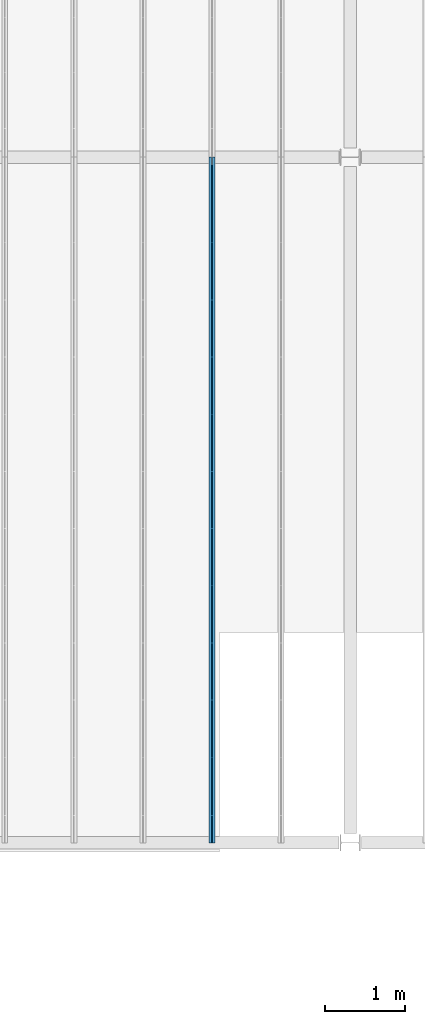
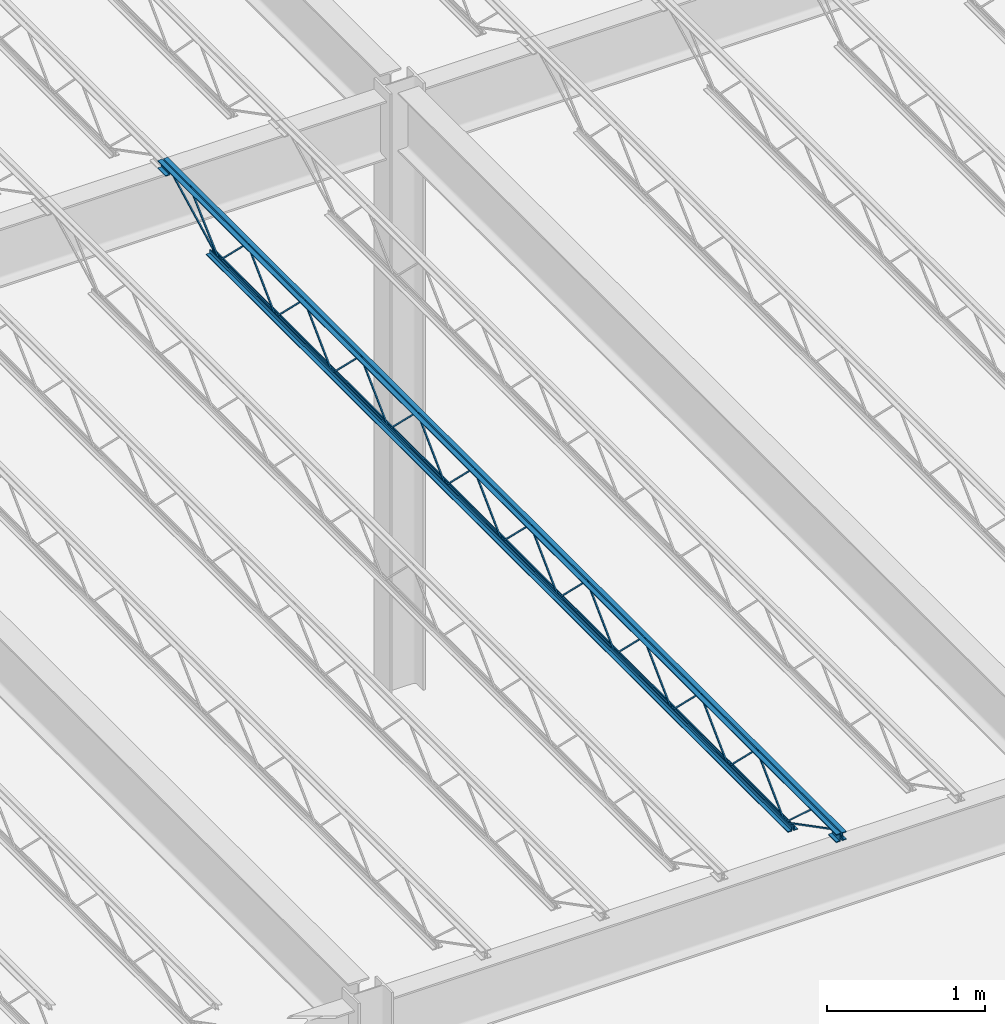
# One storey, part 49 of 119: 1 beam.
"""IFC2X3 building model written with IfcOpenShell, lengths in metres."""

from ifc_helpers import new_model, entity, si_unit, converted_unit, frame, origin, place, context, project, spatial, face_set, surface_model, element, save


model = new_model("IFC2X3")

# Units and contexts
model_context = context("Model", 3, precision=1e-09, world=origin())
plan_context = context("Plan", 3, precision=1e-09, world=origin())
ifc_project = project(units=[si_unit("LENGTHUNIT", "METRE"), si_unit("AREAUNIT", "SQUARE_METRE"), si_unit("VOLUMEUNIT", "CUBIC_METRE"), converted_unit("PLANEANGLEUNIT", "DEGREE", entity("IfcRatioMeasure", 0.01745329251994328), si_unit("PLANEANGLEUNIT", "RADIAN"), dimensions=[0, 0, 0, 0, 0, 0, 0]), si_unit("TIMEUNIT", "SECOND")], contexts=[model_context, plan_context])

# Site, building, storey
site_placement = place(None, origin())
site = spatial("IfcSite", under=ifc_project, at=site_placement, Name="Default", CompositionType="ELEMENT")
building_placement = place(site_placement, origin())
building = spatial("IfcBuilding", under=site, at=building_placement, CompositionType="ELEMENT")
storey_placement = place(building_placement, frame((0.0, 0.0, 4.570000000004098)))
storey = spatial("IfcBuildingStorey", under=building, at=storey_placement, Name="Second Floor", CompositionType="ELEMENT", Elevation=4.570000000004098)

# Beam
beam_placement = place(storey_placement, frame((-16.6434, 10.03999999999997, 4.323999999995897)))
element("IfcBeam", 1, at=beam_placement, inside=storey, Name="M_K-Series Bar Joist-Rod Web:14K1:14K1", ObjectType="M_K-Series Bar Joist-Rod Web:14K1", context=model_context, shape_type="SurfaceModel", body=[
    surface_model("IfcFaceBasedSurfaceModel", [(0.04149999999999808, 6.428799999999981, 0.01110000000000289), (0.03200000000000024, 6.428799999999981, 0.01110000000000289), (0.03200000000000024, 6.428799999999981, 0.001600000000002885), (0.04149999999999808, 6.428799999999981, 0.001600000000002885), (0.03199999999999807, 6.430038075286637, 0.01110000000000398), (0.04149999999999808, 6.430038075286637, 0.01110000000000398), (0.03200000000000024, 6.433911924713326, 0.001600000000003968), (0.0319999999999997, 6.784861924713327, 0.3449000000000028), (0.0319999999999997, 6.78733807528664, 0.3449000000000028), (0.03199999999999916, 7.138288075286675, 0.001600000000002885), (0.03199999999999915, 7.143399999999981, 0.001600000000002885), (0.03200000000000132, 7.143399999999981, 0.01110000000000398), (0.03199999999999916, 7.142161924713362, 0.01110000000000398), (0.0319999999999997, 6.791211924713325, 0.3544000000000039), (0.0319999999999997, 6.780988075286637, 0.3544000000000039), (0.04150000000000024, 6.433911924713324, 0.001600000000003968), (0.04149999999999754, 6.784861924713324, 0.3449000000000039), (0.04149999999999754, 6.787338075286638, 0.3449000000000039), (0.04149999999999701, 7.138288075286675, 0.001600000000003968), (0.041499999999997, 7.143399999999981, 0.001600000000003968), (0.041499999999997, 7.143399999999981, 0.01110000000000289), (0.041499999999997, 7.142161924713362, 0.01110000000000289), (0.04149999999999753, 6.791211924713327, 0.3544000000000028), (0.04149999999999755, 6.780988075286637, 0.3544000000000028), (0.041499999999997, 5.714199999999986, 0.01110000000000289), (0.03199999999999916, 5.714199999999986, 0.01110000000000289), (0.03199999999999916, 5.714199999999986, 0.001600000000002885), (0.041499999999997, 5.714199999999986, 0.001600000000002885), (0.03199999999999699, 5.715438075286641, 0.01110000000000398), (0.041499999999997, 5.715438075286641, 0.01110000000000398), (0.03199999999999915, 5.719311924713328, 0.001600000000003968), (0.03199999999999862, 6.070261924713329, 0.3449000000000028), (0.03199999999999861, 6.072738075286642, 0.3449000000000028), (0.03199999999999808, 6.423688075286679, 0.001600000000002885), (0.03200000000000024, 6.428799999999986, 0.001600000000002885), (0.03200000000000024, 6.428799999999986, 0.01110000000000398), (0.03199999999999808, 6.427561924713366, 0.01110000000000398), (0.03199999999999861, 6.076611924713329, 0.3544000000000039), (0.03199999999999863, 6.066388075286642, 0.3544000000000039), (0.04149999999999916, 5.719311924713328, 0.001600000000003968), (0.04149999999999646, 6.070261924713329, 0.3449000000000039), (0.04149999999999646, 6.072738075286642, 0.3449000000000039), (0.04149999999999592, 6.423688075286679, 0.001600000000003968), (0.04149999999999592, 6.428799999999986, 0.001600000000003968), (0.04149999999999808, 6.428799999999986, 0.01110000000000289), (0.04149999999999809, 6.427561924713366, 0.01110000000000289), (0.04149999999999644, 6.076611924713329, 0.3544000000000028), (0.04149999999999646, 6.066388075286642, 0.3544000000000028), (0.04149999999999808, 4.999599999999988, 0.01110000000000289), (0.03200000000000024, 4.999599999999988, 0.01110000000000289), (0.03200000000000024, 4.999599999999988, 0.001600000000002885), (0.04149999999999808, 4.999599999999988, 0.001600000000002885), (0.03199999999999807, 5.000838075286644, 0.01110000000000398), (0.04149999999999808, 5.000838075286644, 0.01110000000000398), (0.03200000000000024, 5.00471192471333, 0.001600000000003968), (0.0319999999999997, 5.35566192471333, 0.3449000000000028), (0.0319999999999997, 5.358138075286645, 0.3449000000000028), (0.03199999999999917, 5.709088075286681, 0.001600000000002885), (0.03199999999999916, 5.714199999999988, 0.001600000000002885), (0.03200000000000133, 5.714199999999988, 0.01110000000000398), (0.03199999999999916, 5.712961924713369, 0.01110000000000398), (0.0319999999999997, 5.362011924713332, 0.3544000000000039), (0.03199999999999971, 5.351788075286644, 0.3544000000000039), (0.04150000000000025, 5.00471192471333, 0.001600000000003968), (0.04149999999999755, 5.35566192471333, 0.3449000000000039), (0.04149999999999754, 5.358138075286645, 0.3449000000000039), (0.04149999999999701, 5.709088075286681, 0.001600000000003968), (0.041499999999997, 5.714199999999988, 0.001600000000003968), (0.041499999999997, 5.714199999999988, 0.01110000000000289), (0.04149999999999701, 5.712961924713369, 0.01110000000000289), (0.04149999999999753, 5.362011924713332, 0.3544000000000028), (0.04149999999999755, 5.351788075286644, 0.3544000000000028), (0.04149999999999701, 4.28499999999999, 0.01110000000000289), (0.03199999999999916, 4.28499999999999, 0.01110000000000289), (0.03199999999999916, 4.28499999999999, 0.001600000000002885), (0.04149999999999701, 4.28499999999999, 0.001600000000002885), (0.031999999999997, 4.286238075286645, 0.01110000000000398), (0.041499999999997, 4.286238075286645, 0.01110000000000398), (0.03199999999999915, 4.290111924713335, 0.001600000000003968), (0.03199999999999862, 4.641061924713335, 0.3449000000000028), (0.03199999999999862, 4.643538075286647, 0.3449000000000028), (0.03199999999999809, 4.994488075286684, 0.001600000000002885), (0.03200000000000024, 4.999599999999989, 0.001600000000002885), (0.03200000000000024, 4.999599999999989, 0.01110000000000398), (0.03199999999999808, 4.998361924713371, 0.01110000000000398), (0.03199999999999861, 4.647411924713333, 0.3544000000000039), (0.03199999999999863, 4.637188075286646, 0.3544000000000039), (0.04149999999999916, 4.290111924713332, 0.001600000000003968), (0.04149999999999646, 4.641061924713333, 0.3449000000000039), (0.04149999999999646, 4.643538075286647, 0.3449000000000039), (0.04149999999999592, 4.994488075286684, 0.001600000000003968), (0.04149999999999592, 4.999599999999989, 0.001600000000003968), (0.04149999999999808, 4.999599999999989, 0.01110000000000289), (0.04149999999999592, 4.998361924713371, 0.01110000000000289), (0.04149999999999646, 4.647411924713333, 0.3544000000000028), (0.04149999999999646, 4.637188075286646, 0.3544000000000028), (0.04149999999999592, 3.570399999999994, 0.01110000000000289), (0.03199999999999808, 3.570399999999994, 0.01110000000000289), (0.03199999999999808, 3.570399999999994, 0.001600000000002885), (0.04149999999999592, 3.570399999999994, 0.001600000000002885), (0.03199999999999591, 3.57163807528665, 0.01110000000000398), (0.04149999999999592, 3.57163807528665, 0.01110000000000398), (0.03200000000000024, 3.575511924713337, 0.001600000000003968), (0.0319999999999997, 3.926461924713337, 0.3449000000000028), (0.0319999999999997, 3.928938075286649, 0.3449000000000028), (0.03199999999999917, 4.279888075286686, 0.001600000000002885), (0.03199999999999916, 4.284999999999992, 0.001600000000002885), (0.03199999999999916, 4.284999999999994, 0.01110000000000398), (0.031999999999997, 4.283761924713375, 0.01110000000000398), (0.03199999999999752, 3.932811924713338, 0.3544000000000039), (0.03199999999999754, 3.92258807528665, 0.3544000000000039), (0.04149999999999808, 3.575511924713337, 0.001600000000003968), (0.04149999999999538, 3.926461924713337, 0.3449000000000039), (0.04149999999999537, 3.928938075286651, 0.3449000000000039), (0.04149999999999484, 4.279888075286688, 0.001600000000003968), (0.04149999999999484, 4.284999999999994, 0.001600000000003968), (0.04149999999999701, 4.284999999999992, 0.01110000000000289), (0.04149999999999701, 4.283761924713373, 0.01110000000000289), (0.04149999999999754, 3.932811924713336, 0.3544000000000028), (0.04149999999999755, 3.92258807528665, 0.3544000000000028), (0.04149999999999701, 2.855799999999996, 0.01110000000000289), (0.03199999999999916, 2.855799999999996, 0.01110000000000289), (0.03199999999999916, 2.855799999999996, 0.001600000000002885), (0.04149999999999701, 2.855799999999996, 0.001600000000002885), (0.031999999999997, 2.857038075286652, 0.01110000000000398), (0.041499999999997, 2.857038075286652, 0.01110000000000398), (0.03199999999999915, 2.860911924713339, 0.001600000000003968), (0.03199999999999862, 3.21186192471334, 0.3449000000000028), (0.03199999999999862, 3.214338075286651, 0.3449000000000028), (0.03199999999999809, 3.565288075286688, 0.001600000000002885), (0.03200000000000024, 3.570399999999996, 0.01110000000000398), (0.03199999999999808, 3.569161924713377, 0.01110000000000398), (0.03199999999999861, 3.21821192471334, 0.3544000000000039), (0.03199999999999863, 3.207988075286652, 0.3544000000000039), (0.04149999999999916, 2.860911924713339, 0.001600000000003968), (0.04149999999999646, 3.21186192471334, 0.3449000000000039), (0.04149999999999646, 3.214338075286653, 0.3449000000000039), (0.04149999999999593, 3.56528807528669, 0.001600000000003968), (0.04149999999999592, 3.570399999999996, 0.001600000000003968), (0.04149999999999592, 3.569161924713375, 0.01110000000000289), (0.04149999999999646, 3.218211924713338, 0.3544000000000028), (0.04149999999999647, 3.207988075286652, 0.3544000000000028), (0.04149999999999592, 2.141199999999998, 0.01110000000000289), (0.03199999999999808, 2.141199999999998, 0.01110000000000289), (0.03199999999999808, 2.141199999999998, 0.001600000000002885), (0.04149999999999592, 2.141199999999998, 0.001600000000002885), (0.03199999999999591, 2.142438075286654, 0.01110000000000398), (0.04149999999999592, 2.142438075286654, 0.01110000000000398), (0.03200000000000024, 2.146311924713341, 0.001600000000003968), (0.0319999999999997, 2.497261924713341, 0.3449000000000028), (0.0319999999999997, 2.499738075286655, 0.3449000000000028), (0.03199999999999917, 2.85068807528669, 0.001600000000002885), (0.03199999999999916, 2.855799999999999, 0.001600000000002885), (0.03199999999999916, 2.855799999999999, 0.01110000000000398), (0.031999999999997, 2.85456192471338, 0.01110000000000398), (0.03199999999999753, 2.503611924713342, 0.3544000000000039), (0.03199999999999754, 2.493388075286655, 0.3544000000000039), (0.04149999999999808, 2.146311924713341, 0.001600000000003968), (0.04149999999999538, 2.497261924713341, 0.3449000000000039), (0.04149999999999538, 2.499738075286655, 0.3449000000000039), (0.04149999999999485, 2.850688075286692, 0.001600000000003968), (0.04149999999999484, 2.855799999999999, 0.001600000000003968), (0.04149999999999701, 2.855799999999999, 0.01110000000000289), (0.04149999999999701, 2.85456192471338, 0.01110000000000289), (0.04149999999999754, 2.503611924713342, 0.3544000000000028), (0.04149999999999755, 2.493388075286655, 0.3544000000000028), (0.04149999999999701, 1.426600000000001, 0.01110000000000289), (0.03199999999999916, 1.426600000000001, 0.01110000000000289), (0.03199999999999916, 1.426600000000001, 0.001600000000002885), (0.04149999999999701, 1.426600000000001, 0.001600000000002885), (0.031999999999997, 1.427838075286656, 0.01110000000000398), (0.04149999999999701, 1.427838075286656, 0.01110000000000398), (0.03199999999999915, 1.431711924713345, 0.001600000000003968), (0.03199999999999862, 1.782661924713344, 0.3449000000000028), (0.03199999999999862, 1.785138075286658, 0.3449000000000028), (0.03199999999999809, 2.136088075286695, 0.001600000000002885), (0.03199999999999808, 2.1412, 0.001600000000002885), (0.03200000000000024, 2.1412, 0.01110000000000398), (0.03199999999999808, 2.139961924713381, 0.01110000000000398), (0.03199999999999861, 1.789011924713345, 0.3544000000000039), (0.03199999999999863, 1.778788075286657, 0.3544000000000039), (0.04149999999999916, 1.431711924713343, 0.001600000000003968), (0.04149999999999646, 1.782661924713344, 0.3449000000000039), (0.04149999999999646, 1.785138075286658, 0.3449000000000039), (0.04149999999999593, 2.136088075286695, 0.001600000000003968), (0.04149999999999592, 2.1412, 0.001600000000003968), (0.04149999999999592, 2.1412, 0.01110000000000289), (0.04149999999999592, 2.139961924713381, 0.01110000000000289), (0.04149999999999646, 1.789011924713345, 0.3544000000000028), (0.04149999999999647, 1.778788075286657, 0.3544000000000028), (0.04149999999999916, 7.143399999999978, 0.01109999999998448), (0.03200000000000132, 7.143399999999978, 0.01109999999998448), (0.03200000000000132, 7.143399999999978, 0.001599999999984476), (0.04149999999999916, 7.143399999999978, 0.001599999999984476), (0.03199999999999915, 7.144638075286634, 0.01109999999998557), (0.04149999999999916, 7.144638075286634, 0.01109999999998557), (0.03199999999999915, 7.148511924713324, 0.001599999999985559), (0.03199999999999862, 7.499461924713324, 0.3448999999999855), (0.03199999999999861, 7.501938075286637, 0.3448999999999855), (0.03199999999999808, 7.852888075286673, 0.001599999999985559), (0.0320000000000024, 7.857999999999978, 0.001599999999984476), (0.03200000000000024, 7.857999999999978, 0.01109999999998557), (0.03199999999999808, 7.85676192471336, 0.01109999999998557), (0.03199999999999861, 7.505811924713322, 0.3543999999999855), (0.03199999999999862, 7.495588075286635, 0.3543999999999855), (0.04149999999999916, 7.148511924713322, 0.001599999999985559), (0.04149999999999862, 7.499461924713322, 0.3448999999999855), (0.04149999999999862, 7.501938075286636, 0.3448999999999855), (0.04149999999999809, 7.852888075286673, 0.001599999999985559), (0.04149999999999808, 7.857999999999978, 0.001599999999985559), (0.04150000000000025, 7.857999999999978, 0.01109999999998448), (0.04150000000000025, 7.85676192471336, 0.01109999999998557), (0.04149999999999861, 7.505811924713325, 0.3543999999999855), (0.04149999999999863, 7.495588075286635, 0.3543999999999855), (0.04149999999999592, 0.7120000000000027, 0.01110000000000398), (0.03199999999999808, 0.7120000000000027, 0.01110000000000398), (0.03199999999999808, 0.7120000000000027, 0.001600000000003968), (0.04149999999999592, 0.7120000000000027, 0.001600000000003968), (0.03199999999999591, 0.7132380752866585, 0.01110000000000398), (0.04149999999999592, 0.7132380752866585, 0.01110000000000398), (0.03200000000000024, 0.7171119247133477, 0.001600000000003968), (0.0319999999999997, 1.068061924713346, 0.3449000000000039), (0.0319999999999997, 1.07053807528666, 0.3449000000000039), (0.03199999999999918, 1.421488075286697, 0.001600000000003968), (0.03199999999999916, 1.426600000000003, 0.001600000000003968), (0.03199999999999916, 1.426600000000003, 0.01110000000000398), (0.031999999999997, 1.425361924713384, 0.01110000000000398), (0.03199999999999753, 1.074411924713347, 0.3544000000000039), (0.03199999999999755, 1.064188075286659, 0.3544000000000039), (0.04149999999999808, 0.7171119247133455, 0.001600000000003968), (0.04149999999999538, 1.068061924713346, 0.3449000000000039), (0.04149999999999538, 1.07053807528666, 0.3449000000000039), (0.04149999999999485, 1.421488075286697, 0.001600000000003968), (0.04149999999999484, 1.426600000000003, 0.001600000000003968), (0.04149999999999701, 1.426600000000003, 0.01110000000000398), (0.04149999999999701, 1.425361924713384, 0.01110000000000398), (0.04149999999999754, 1.074411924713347, 0.3544000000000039), (0.04149999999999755, 1.064188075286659, 0.3544000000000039), (0.031999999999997, 8.569999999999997, 0.3559999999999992), (0.0, 8.569999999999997, 0.3559999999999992), (0.0, 8.569999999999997, 0.3494999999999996), (0.02549999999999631, 8.569999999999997, 0.3494999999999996), (0.02549999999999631, 8.569999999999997, 0.3239999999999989), (0.031999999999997, 8.569999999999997, 0.3239999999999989), (0.04149999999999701, 8.569999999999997, 0.3559999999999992), (0.04149999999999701, 8.569999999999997, 0.3239999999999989), (0.04799999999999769, 8.569999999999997, 0.3239999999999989), (0.04799999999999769, 8.569999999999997, 0.3494999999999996), (0.07349999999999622, 8.569999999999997, 0.3494999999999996), (0.07349999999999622, 8.569999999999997, 0.3559999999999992), (0.031999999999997, 0.0, 0.3559999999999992), (0.0, 0.0, 0.3559999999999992), (0.0, 0.0, 0.3494999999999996), (0.02549999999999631, 0.0, 0.3494999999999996), (0.02549999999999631, 0.0, 0.3239999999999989), (0.031999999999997, 0.0, 0.3239999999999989), (0.04149999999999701, 0.0, 0.3559999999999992), (0.04149999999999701, 0.0, 0.3239999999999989), (0.04799999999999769, 0.0, 0.3239999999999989), (0.04799999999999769, 0.0, 0.3494999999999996), (0.07349999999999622, 0.0, 0.3494999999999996), (0.07349999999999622, 0.0, 0.3559999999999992), (0.04149999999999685, 0.09999999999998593, 0.2924999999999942), (0.07349999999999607, 0.09999999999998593, 0.2924999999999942), (0.07349999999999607, 0.09999999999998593, 0.2989999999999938), (0.04799999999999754, 0.09999999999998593, 0.2989999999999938), (0.04799999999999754, 0.09999999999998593, 0.3239999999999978), (0.04149999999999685, 0.09999999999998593, 0.3239999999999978), (0.0, 0.09999999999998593, 0.2924999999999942), (0.03199999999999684, 0.09999999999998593, 0.2924999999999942), (0.03199999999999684, 0.09999999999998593, 0.3239999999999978), (0.02549999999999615, 0.09999999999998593, 0.3239999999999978), (0.02549999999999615, 0.09999999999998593, 0.2989999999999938), (0.0, 0.09999999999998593, 0.2989999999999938), (0.04149999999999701, 0.0, 0.2924999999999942), (0.07349999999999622, 0.0, 0.2924999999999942), (0.07349999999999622, 0.0, 0.2989999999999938), (0.04799999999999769, 0.0, 0.2989999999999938), (0.04799999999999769, 0.0, 0.3239999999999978), (0.04149999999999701, 0.0, 0.3239999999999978), (0.0, 0.0, 0.2924999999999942), (0.031999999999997, 0.0, 0.2924999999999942), (0.031999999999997, 0.0, 0.3239999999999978), (0.02549999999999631, 0.0, 0.3239999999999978), (0.02549999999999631, 0.0, 0.2989999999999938), (0.0, 0.0, 0.2989999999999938), (0.031999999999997, 8.569999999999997, 0.2924999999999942), (0.031999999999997, 8.569999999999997, 0.3239999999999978), (0.02549999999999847, 8.569999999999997, 0.3239999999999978), (0.02549999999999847, 8.569999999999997, 0.2989999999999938), (0.0, 8.569999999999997, 0.2989999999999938), (0.0, 8.569999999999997, 0.2924999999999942), (0.04149999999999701, 8.569999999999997, 0.2924999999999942), (0.07349999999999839, 8.569999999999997, 0.2924999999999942), (0.07349999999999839, 8.569999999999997, 0.2989999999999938), (0.04799999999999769, 8.569999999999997, 0.2989999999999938), (0.04799999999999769, 8.569999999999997, 0.3239999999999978), (0.04149999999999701, 8.569999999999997, 0.3239999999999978), (0.03199999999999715, 8.469999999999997, 0.2924999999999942), (0.03199999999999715, 8.469999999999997, 0.3239999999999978), (0.02549999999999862, 8.469999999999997, 0.3239999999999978), (0.02549999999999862, 8.469999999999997, 0.2989999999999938), (0.0, 8.469999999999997, 0.2989999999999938), (0.0, 8.469999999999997, 0.2924999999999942), (0.04149999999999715, 8.469999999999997, 0.2924999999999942), (0.07349999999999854, 8.469999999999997, 0.2924999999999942), (0.07349999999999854, 8.469999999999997, 0.2989999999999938), (0.04799999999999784, 8.469999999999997, 0.2989999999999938), (0.04799999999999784, 8.469999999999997, 0.3239999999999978), (0.04149999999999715, 8.469999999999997, 0.3239999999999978), (0.03199999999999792, 7.958000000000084, 0.0), (0.03199999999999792, 7.958000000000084, 0.03199999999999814), (0.02549999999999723, 7.958000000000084, 0.03199999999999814), (0.02549999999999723, 7.958000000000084, 0.006499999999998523), (0.0, 7.958000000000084, 0.006499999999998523), (0.0, 7.958000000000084, 0.0), (0.04149999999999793, 7.958000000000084, 0.0), (0.07349999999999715, 7.958000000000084, 0.0), (0.07349999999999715, 7.958000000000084, 0.006499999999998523), (0.04799999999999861, 7.958000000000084, 0.006499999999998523), (0.04799999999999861, 7.958000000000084, 0.03199999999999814), (0.04149999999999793, 7.958000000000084, 0.03199999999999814), (0.03199999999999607, 0.6120000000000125, 0.0), (0.03199999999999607, 0.6120000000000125, 0.03199999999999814), (0.02549999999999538, 0.6120000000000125, 0.03199999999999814), (0.02549999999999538, 0.6120000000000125, 0.006499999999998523), (0.0, 0.6120000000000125, 0.006499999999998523), (0.0, 0.6120000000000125, 0.0), (0.04149999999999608, 0.6120000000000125, 0.0), (0.07349999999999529, 0.6120000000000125, 0.0), (0.07349999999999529, 0.6120000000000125, 0.006499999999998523), (0.04799999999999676, 0.6120000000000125, 0.006499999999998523), (0.04799999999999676, 0.6120000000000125, 0.03199999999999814), (0.04149999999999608, 0.6120000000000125, 0.03199999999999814), (0.04149999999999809, 0.7141882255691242, 0.01056594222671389), (0.03199999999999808, 0.7141882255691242, 0.01056594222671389), (0.03199999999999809, 0.7098117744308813, 0.002134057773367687), (0.04149999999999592, 0.7098117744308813, 0.00213405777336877), (0.04150000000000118, 0.101159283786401, 0.3287499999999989), (0.04150000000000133, 0.0, 0.3287499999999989), (0.04149999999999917, 0.0, 0.3192499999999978), (0.04149999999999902, 0.09884071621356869, 0.3192499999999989), (0.03199999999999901, 0.09884071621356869, 0.3192499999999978), (0.03199999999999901, 0.101159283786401, 0.3287499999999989), (0.03199999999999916, 0.0, 0.3287499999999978), (0.03199999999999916, 0.0, 0.3192499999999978), (0.0414999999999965, 0.3347428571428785, 0.3417000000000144), (0.03199999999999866, 0.3347428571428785, 0.3417000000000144), (0.03199999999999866, 0.3347428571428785, 0.3322000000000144), (0.0414999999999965, 0.3347428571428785, 0.3322000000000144), (0.03199999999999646, 0.3492758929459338, 0.3417000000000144), (0.04149999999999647, 0.3492758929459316, 0.3417000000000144), (0.03199999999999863, 0.3456098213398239, 0.3322000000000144), (0.03199999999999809, 0.7088091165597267, 0.002831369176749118), (0.03199999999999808, 0.7151908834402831, 0.009868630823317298), (0.04149999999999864, 0.3456098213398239, 0.3322000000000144), (0.04149999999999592, 0.7088091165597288, 0.002831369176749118), (0.04149999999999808, 0.7151908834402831, 0.009868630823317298), (0.04149999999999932, 8.472188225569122, 0.3197840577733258), (0.04149999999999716, 8.467811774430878, 0.328215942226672), (0.03199999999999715, 8.467811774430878, 0.328215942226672), (0.03199999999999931, 8.472188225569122, 0.3197840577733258), (0.04150000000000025, 7.860188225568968, 0.002134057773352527), (0.04149999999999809, 7.855811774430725, 0.01056594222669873), (0.03199999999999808, 7.855811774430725, 0.01056594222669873), (0.03200000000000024, 7.860188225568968, 0.002134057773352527), (0.04149999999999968, 8.233036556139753, 0.3461600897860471), (0.04149999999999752, 8.226592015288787, 0.3531399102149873), (0.03199999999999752, 8.226592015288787, 0.3531399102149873), (0.03199999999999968, 8.233036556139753, 0.3461600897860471), (0.04150000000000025, 7.861222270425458, 0.00286008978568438), (0.04149999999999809, 7.854777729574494, 0.009839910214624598), (0.03199999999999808, 7.854777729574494, 0.009839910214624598), (0.03200000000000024, 7.861222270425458, 0.00286008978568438)], [face_set([[[0, 1, 2, 3]], [[1, 4, 5, 0]], [[2, 6, 7, 8, 9, 10, 11, 12, 13, 14, 4, 1]], [[3, 2, 6, 15]], [[0, 3, 15, 16, 17, 18, 19, 20, 21, 22, 23, 5]], [[4, 5, 23, 14]], [[15, 16, 7, 6]], [[14, 13, 22, 23]], [[16, 7, 8, 17]], [[13, 12, 21, 22]], [[17, 8, 9, 18]], [[20, 11, 10, 19]], [[12, 11, 20, 21]], [[18, 9, 10, 19]]]), face_set([[[24, 25, 26, 27]], [[25, 28, 29, 24]], [[26, 30, 31, 32, 33, 34, 35, 36, 37, 38, 28, 25]], [[27, 26, 30, 39]], [[24, 27, 39, 40, 41, 42, 43, 44, 45, 46, 47, 29]], [[28, 29, 47, 38]], [[39, 40, 31, 30]], [[38, 37, 46, 47]], [[40, 31, 32, 41]], [[37, 36, 45, 46]], [[41, 32, 33, 42]], [[44, 35, 34, 43]], [[36, 35, 44, 45]], [[42, 33, 34, 43]]]), face_set([[[48, 49, 50, 51]], [[49, 52, 53, 48]], [[50, 54, 55, 56, 57, 58, 59, 60, 61, 62, 52, 49]], [[51, 50, 54, 63]], [[48, 51, 63, 64, 65, 66, 67, 68, 69, 70, 71, 53]], [[52, 53, 71, 62]], [[63, 64, 55, 54]], [[62, 61, 70, 71]], [[64, 55, 56, 65]], [[61, 60, 69, 70]], [[65, 56, 57, 66]], [[68, 59, 58, 67]], [[60, 59, 68, 69]], [[66, 57, 58, 67]]]), face_set([[[72, 73, 74, 75]], [[73, 76, 77, 72]], [[74, 78, 79, 80, 81, 82, 83, 84, 85, 86, 76, 73]], [[75, 74, 78, 87]], [[72, 75, 87, 88, 89, 90, 91, 92, 93, 94, 95, 77]], [[76, 77, 95, 86]], [[87, 88, 79, 78]], [[86, 85, 94, 95]], [[88, 79, 80, 89]], [[85, 84, 93, 94]], [[89, 80, 81, 90]], [[92, 83, 82, 91]], [[84, 83, 92, 93]], [[90, 81, 82, 91]]]), face_set([[[96, 97, 98, 99]], [[97, 100, 101, 96]], [[98, 102, 103, 104, 105, 106, 107, 108, 109, 110, 100, 97]], [[99, 98, 102, 111]], [[96, 99, 111, 112, 113, 114, 115, 116, 117, 118, 119, 101]], [[100, 101, 119, 110]], [[111, 112, 103, 102]], [[110, 109, 118, 119]], [[112, 103, 104, 113]], [[109, 108, 117, 118]], [[113, 104, 105, 114]], [[116, 107, 106, 115]], [[108, 107, 116, 117]], [[114, 105, 106, 115]]]), face_set([[[120, 121, 122, 123]], [[121, 124, 125, 120]], [[122, 126, 127, 128, 129, 98, 130, 131, 132, 133, 124, 121]], [[123, 122, 126, 134]], [[120, 123, 134, 135, 136, 137, 138, 96, 139, 140, 141, 125]], [[124, 125, 141, 133]], [[134, 135, 127, 126]], [[133, 132, 140, 141]], [[135, 127, 128, 136]], [[132, 131, 139, 140]], [[136, 128, 129, 137]], [[96, 130, 98, 138]], [[131, 130, 96, 139]], [[137, 129, 98, 138]]]), face_set([[[142, 143, 144, 145]], [[143, 146, 147, 142]], [[144, 148, 149, 150, 151, 152, 153, 154, 155, 156, 146, 143]], [[145, 144, 148, 157]], [[142, 145, 157, 158, 159, 160, 161, 162, 163, 164, 165, 147]], [[146, 147, 165, 156]], [[157, 158, 149, 148]], [[156, 155, 164, 165]], [[158, 149, 150, 159]], [[155, 154, 163, 164]], [[159, 150, 151, 160]], [[162, 153, 152, 161]], [[154, 153, 162, 163]], [[160, 151, 152, 161]]]), face_set([[[166, 167, 168, 169]], [[167, 170, 171, 166]], [[168, 172, 173, 174, 175, 176, 177, 178, 179, 180, 170, 167]], [[169, 168, 172, 181]], [[166, 169, 181, 182, 183, 184, 185, 186, 187, 188, 189, 171]], [[170, 171, 189, 180]], [[181, 182, 173, 172]], [[180, 179, 188, 189]], [[182, 173, 174, 183]], [[179, 178, 187, 188]], [[183, 174, 175, 184]], [[186, 177, 176, 185]], [[178, 177, 186, 187]], [[184, 175, 176, 185]]]), face_set([[[190, 191, 192, 193]], [[191, 194, 195, 190]], [[192, 196, 197, 198, 199, 200, 201, 202, 203, 204, 194, 191]], [[193, 192, 196, 205]], [[190, 193, 205, 206, 207, 208, 209, 210, 211, 212, 213, 195]], [[194, 195, 213, 204]], [[205, 206, 197, 196]], [[204, 203, 212, 213]], [[206, 197, 198, 207]], [[203, 202, 211, 212]], [[207, 198, 199, 208]], [[210, 201, 200, 209]], [[202, 201, 210, 211]], [[208, 199, 200, 209]]]), face_set([[[214, 215, 216, 217]], [[215, 218, 219, 214]], [[216, 220, 221, 222, 223, 224, 225, 226, 227, 228, 218, 215]], [[217, 216, 220, 229]], [[214, 217, 229, 230, 231, 232, 233, 234, 235, 236, 237, 219]], [[218, 219, 237, 228]], [[229, 230, 221, 220]], [[228, 227, 236, 237]], [[230, 221, 222, 231]], [[227, 226, 235, 236]], [[231, 222, 223, 232]], [[234, 225, 224, 233]], [[226, 225, 234, 235]], [[232, 223, 224, 233]]]), face_set([[[238, 239, 240, 241, 242, 243]], [[244, 245, 246, 247, 248, 249]], [[250, 251, 252, 253, 254, 255]], [[256, 257, 258, 259, 260, 261]], [[243, 238, 250, 255]], [[242, 243, 255, 254]], [[241, 253, 254, 242]], [[240, 241, 253, 252]], [[239, 251, 252, 240]], [[238, 250, 251, 239]], [[249, 261, 256, 244]], [[248, 249, 261, 260]], [[247, 248, 260, 259]], [[246, 247, 259, 258]], [[245, 246, 258, 257]], [[244, 256, 257, 245]]]), face_set([[[262, 263, 264, 265, 266, 267]], [[268, 269, 270, 271, 272, 273]], [[274, 275, 276, 277, 278, 279]], [[280, 281, 282, 283, 284, 285]], [[267, 279, 274, 262]], [[266, 278, 279, 267]], [[265, 266, 278, 277]], [[264, 276, 277, 265]], [[263, 264, 276, 275]], [[262, 263, 275, 274]], [[273, 285, 280, 268]], [[272, 284, 285, 273]], [[271, 283, 284, 272]], [[270, 282, 283, 271]], [[269, 270, 282, 281]], [[268, 269, 281, 280]]]), face_set([[[286, 287, 288, 289, 290, 291]], [[292, 293, 294, 295, 296, 297]], [[298, 299, 300, 301, 302, 303]], [[304, 305, 306, 307, 308, 309]], [[291, 286, 298, 303]], [[290, 302, 303, 291]], [[289, 301, 302, 290]], [[288, 300, 301, 289]], [[287, 299, 300, 288]], [[286, 287, 299, 298]], [[297, 309, 304, 292]], [[296, 308, 309, 297]], [[295, 296, 308, 307]], [[294, 306, 307, 295]], [[293, 294, 306, 305]], [[292, 293, 305, 304]]]), face_set([[[310, 311, 312, 313, 314, 315]], [[316, 317, 318, 319, 320, 321]], [[322, 323, 324, 325, 326, 327]], [[328, 329, 330, 331, 332, 333]], [[315, 310, 322, 327]], [[314, 326, 327, 315]], [[313, 325, 326, 314]], [[312, 324, 325, 313]], [[311, 323, 324, 312]], [[310, 311, 323, 322]], [[321, 333, 328, 316]], [[320, 332, 333, 321]], [[319, 320, 332, 331]], [[318, 330, 331, 319]], [[317, 318, 330, 329]], [[316, 317, 329, 328]]]), face_set([[[334, 335, 336, 337]], [[337, 334, 338, 339, 340, 341]], [[336, 337, 341, 342]], [[335, 343, 344, 345, 342, 336]], [[334, 338, 343, 335]], [[339, 344, 345, 340]], [[342, 341, 340, 345]], [[338, 339, 344, 343]]]), face_set([[[346, 347, 348, 349]], [[347, 350, 351, 346]], [[348, 352, 353, 354, 350, 347]], [[349, 348, 352, 355]], [[346, 349, 355, 356, 357, 351]], [[357, 354, 353, 356]], [[350, 354, 357, 351]], [[355, 352, 353, 356]]]), face_set([[[358, 359, 360, 361]], [[362, 363, 364, 365]], [[361, 358, 362, 365]], [[360, 364, 365, 361]], [[359, 363, 364, 360]], [[358, 359, 363, 362]]]), face_set([[[366, 367, 368, 369]], [[370, 371, 372, 373]], [[369, 373, 370, 366]], [[368, 372, 373, 369]], [[367, 368, 372, 371]], [[366, 367, 371, 370]]])]),
])

save(model, "model.ifc")
